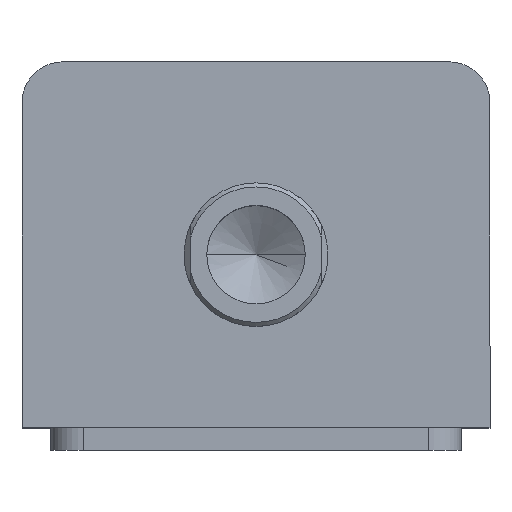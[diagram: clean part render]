
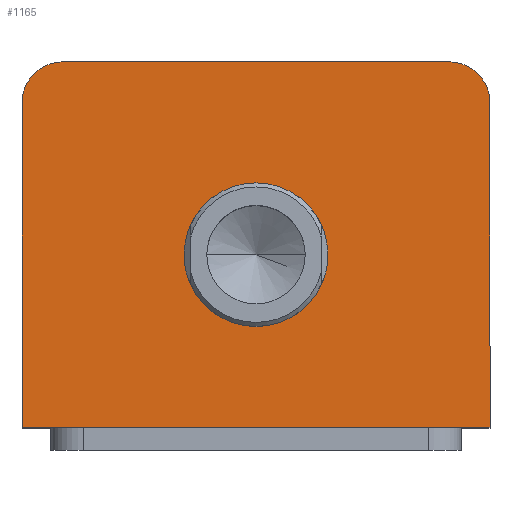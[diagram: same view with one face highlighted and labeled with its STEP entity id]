
A CAD part, top view. The second image highlights one B-rep face of the part: STEP entity #1165.
In plain terms, the highlighted planar face has unit normal (0, 0, 1).
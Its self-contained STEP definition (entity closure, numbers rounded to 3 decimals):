
#201 = CARTESIAN_POINT ( 'NONE',  ( -57., 34.5, 177. ) ) ;
#224 = CARTESIAN_POINT ( 'NONE',  ( 57., -44.5, 177. ) ) ;
#453 = CARTESIAN_POINT ( 'NONE',  ( 47., 44.5, 177. ) ) ;
#484 = CARTESIAN_POINT ( 'NONE',  ( -57., -44.5, 177. ) ) ;
#590 = PLANE ( 'NONE',  #3252 ) ;
#593 = CARTESIAN_POINT ( 'NONE',  ( 0., 0., 177. ) ) ;
#599 = DIRECTION ( 'NONE',  ( 0., 0., 1. ) ) ;
#600 = DIRECTION ( 'NONE',  ( 1., 0., 0. ) ) ;
#681 = VERTEX_POINT ( 'NONE', #201 ) ;
#725 = VERTEX_POINT ( 'NONE', #224 ) ;
#726 = VERTEX_POINT ( 'NONE', #2966 ) ;
#728 = VERTEX_POINT ( 'NONE', #1027 ) ;
#736 = VERTEX_POINT ( 'NONE', #1035 ) ;
#739 = EDGE_LOOP ( 'NONE', ( #2091, #2092 ) ) ;
#752 = VERTEX_POINT ( 'NONE', #1034 ) ;
#895 = CARTESIAN_POINT ( 'NONE',  ( -47., 34.5, 177. ) ) ;
#896 = DIRECTION ( 'NONE',  ( 0., 0., 1. ) ) ;
#897 = DIRECTION ( 'NONE',  ( 1., 0., 0. ) ) ;
#1027 = CARTESIAN_POINT ( 'NONE',  ( -17.5, -2.5, 177. ) ) ;
#1034 = CARTESIAN_POINT ( 'NONE',  ( 57., 34.5, 177. ) ) ;
#1035 = CARTESIAN_POINT ( 'NONE',  ( -47., 44.5, 177. ) ) ;
#1165 = ADVANCED_FACE ( 'NONE', ( #1841, #1848 ), #590, .T. ) ;
#1324 = CARTESIAN_POINT ( 'NONE',  ( -57., 44.5, 177. ) ) ;
#1325 = DIRECTION ( 'NONE',  ( 0., -1., 0. ) ) ;
#1352 = CARTESIAN_POINT ( 'NONE',  ( -57., 44.5, 177. ) ) ;
#1353 = DIRECTION ( 'NONE',  ( -1., 0., 0. ) ) ;
#1382 = CARTESIAN_POINT ( 'NONE',  ( 47., 34.5, 177. ) ) ;
#1383 = DIRECTION ( 'NONE',  ( 0., 0., 1. ) ) ;
#1384 = DIRECTION ( 'NONE',  ( 1., 0., 0. ) ) ;
#1412 = DIRECTION ( 'NONE',  ( 1., 0., 0. ) ) ;
#1481 = CARTESIAN_POINT ( 'NONE',  ( 57., 44.5, 177. ) ) ;
#1482 = DIRECTION ( 'NONE',  ( 0., 1., 0. ) ) ;
#1610 = CARTESIAN_POINT ( 'NONE',  ( 0., -2.5, 177. ) ) ;
#1611 = DIRECTION ( 'NONE',  ( 0., 0., 1. ) ) ;
#1612 = DIRECTION ( 'NONE',  ( 1., 0., 0. ) ) ;
#1615 = CARTESIAN_POINT ( 'NONE',  ( 0., -2.5, 177. ) ) ;
#1616 = DIRECTION ( 'NONE',  ( 0., 0., 1. ) ) ;
#1617 = DIRECTION ( 'NONE',  ( 1., 0., 0. ) ) ;
#1632 = CARTESIAN_POINT ( 'NONE',  ( -57., -44.5, 177. ) ) ;
#1841 = FACE_BOUND ( 'NONE', #739, .T. ) ;
#1848 = FACE_OUTER_BOUND ( 'NONE', #2447, .T. ) ;
#1942 = VERTEX_POINT ( 'NONE', #453 ) ;
#1980 = VERTEX_POINT ( 'NONE', #484 ) ;
#2091 = ORIENTED_EDGE ( 'NONE', *, *, #3475, .F. ) ;
#2092 = ORIENTED_EDGE ( 'NONE', *, *, #3473, .F. ) ;
#2093 = ORIENTED_EDGE ( 'NONE', *, *, #3553, .T. ) ;
#2094 = ORIENTED_EDGE ( 'NONE', *, *, #3576, .T. ) ;
#2095 = ORIENTED_EDGE ( 'NONE', *, *, #3539, .T. ) ;
#2096 = ORIENTED_EDGE ( 'NONE', *, *, #3484, .T. ) ;
#2097 = ORIENTED_EDGE ( 'NONE', *, *, #3513, .T. ) ;
#2098 = ORIENTED_EDGE ( 'NONE', *, *, #3561, .T. ) ;
#2447 = EDGE_LOOP ( 'NONE', ( #2093, #2094, #2095, #2096, #2097, #2098 ) ) ;
#2592 = CIRCLE ( 'NONE', #3151, 17.5 ) ;
#2601 = CIRCLE ( 'NONE', #3150, 17.5 ) ;
#2609 = LINE ( 'NONE', #1632, #2617 ) ;
#2617 = VECTOR ( 'NONE', #1412, 1000. ) ;
#2660 = LINE ( 'NONE', #1481, #2663 ) ;
#2663 = VECTOR ( 'NONE', #1482, 1000. ) ;
#2703 = LINE ( 'NONE', #1324, #2706 ) ;
#2706 = VECTOR ( 'NONE', #1325, 1000. ) ;
#2725 = LINE ( 'NONE', #1352, #2727 ) ;
#2727 = VECTOR ( 'NONE', #1353, 1000. ) ;
#2735 = CIRCLE ( 'NONE', #3115, 10. ) ;
#2759 = CIRCLE ( 'NONE', #3111, 10. ) ;
#2966 = CARTESIAN_POINT ( 'NONE',  ( 17.5, -2.5, 177. ) ) ;
#3111 = AXIS2_PLACEMENT_3D ( 'NONE', #895, #896, #897 ) ;
#3115 = AXIS2_PLACEMENT_3D ( 'NONE', #1382, #1383, #1384 ) ;
#3150 = AXIS2_PLACEMENT_3D ( 'NONE', #1615, #1616, #1617 ) ;
#3151 = AXIS2_PLACEMENT_3D ( 'NONE', #1610, #1611, #1612 ) ;
#3252 = AXIS2_PLACEMENT_3D ( 'NONE', #593, #599, #600 ) ;
#3473 = EDGE_CURVE ( 'NONE', #728, #726, #2592, .T. ) ;
#3475 = EDGE_CURVE ( 'NONE', #726, #728, #2601, .T. ) ;
#3484 = EDGE_CURVE ( 'NONE', #1980, #725, #2609, .T. ) ;
#3513 = EDGE_CURVE ( 'NONE', #725, #752, #2660, .T. ) ;
#3539 = EDGE_CURVE ( 'NONE', #681, #1980, #2703, .T. ) ;
#3553 = EDGE_CURVE ( 'NONE', #1942, #736, #2725, .T. ) ;
#3561 = EDGE_CURVE ( 'NONE', #752, #1942, #2735, .T. ) ;
#3576 = EDGE_CURVE ( 'NONE', #736, #681, #2759, .T. ) ;
